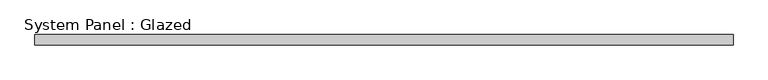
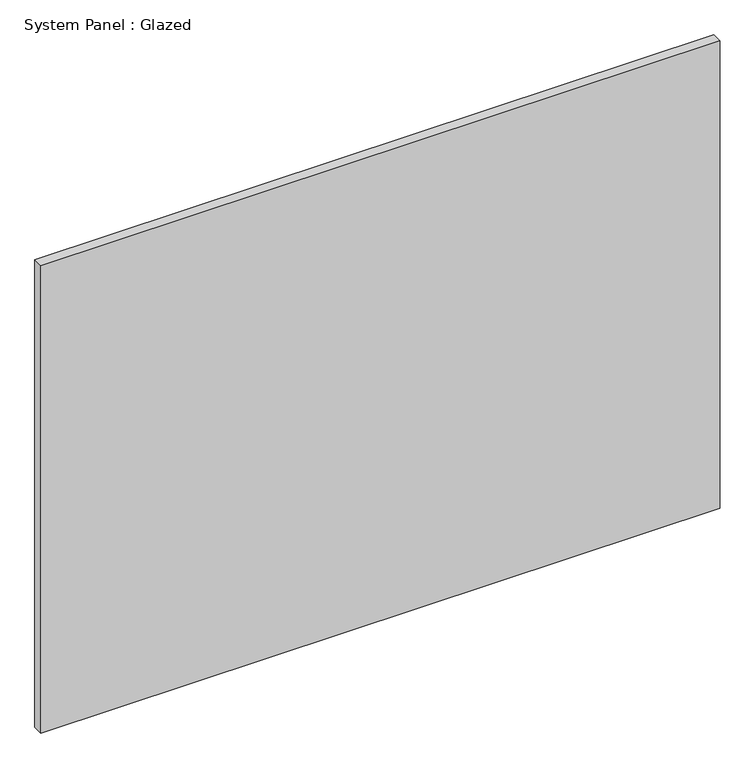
"""IFC4 building model written with IfcOpenShell, lengths in millimetres: plate geometry, System Panel : Glazed."""

from ifc_helpers import new_model, si_unit, origin, origin_with_axes, place, context, project, spatial, polyline, outline, extrude, source, transform, mapped, element, save


def system_panel_glazed_a29ab13c(model_context):
    return source(origin(), model_context, "Body", "SweptSolid", [
        extrude(outline(polyline([(825.0, -49.5), (-825.0, -49.5), (-825.0, -24.5), (825.0, -24.5), (825.0, -49.5)])), origin_with_axes(), (0.0, 0.0, 1.0), 1200.0),
    ])


if __name__ == "__main__":
    model = new_model("IFC4")
    model_context = context("Model", 3, world=origin())
    ifc_project = project(units=[si_unit("LENGTHUNIT", "METRE", prefix="MILLI")], contexts=[model_context])
    site = spatial("IfcSite", under=ifc_project)
    building = spatial("IfcBuilding", under=site)
    placement = place(None, origin())
    system_panel_glazed_shape = system_panel_glazed_a29ab13c(model_context)
    element("IfcPlate", 1, ObjectType="System Panel : Glazed", at=placement, inside=building, context=model_context, shape_type="MappedRepresentation", body=[
        mapped(system_panel_glazed_shape, transform((0.0, 0.0, 0.0), x_axis=(1.0, 0.0, 0.0), y_axis=(0.0, 1.0, 0.0), z_axis=(0.0, 0.0, 1.0))),
    ])
    save(model, "model.ifc")
